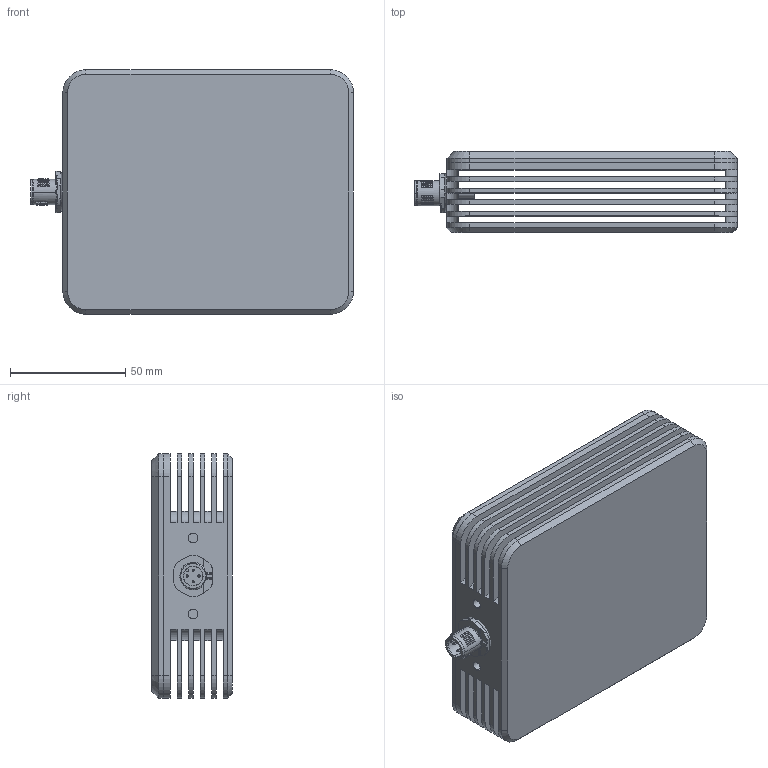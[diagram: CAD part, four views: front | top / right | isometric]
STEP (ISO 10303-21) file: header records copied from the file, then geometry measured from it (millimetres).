
FILE_DESCRIPTION (( 'STEP AP214' ), '1' );
FILE_NAME ('mbx_assem.STEP', '2015-07-09T19:57:10', ( 'admin' ), ( '' ), 'SwSTEP 2.0', 'SolidWorks 2014', '' );
FILE_SCHEMA (( 'AUTOMOTIVE_DESIGN' ));
Length unit declared in the file: millimetre
Products named in the file (1): mbx_assem
Bounding box: 140 x 35 x 106 mm (x, y, z)
Surface area: 74531.6 mm2 (no closed solid volume)
Topology: 0 solids, 19 shells, 397 faces, 1342 edges, 914 vertices
Faces by surface type: plane 174, cylinder 133, bspline 48, cone 36, sphere 4, torus 2
Entity records: 22221 total; most frequent: CARTESIAN_POINT 6684, DIRECTION 2257, ORIENTED_EDGE 2139, EDGE_CURVE 1334, VERTEX_POINT 914, VECTOR 769, LINE 769, AXIS2_PLACEMENT_3D 744
